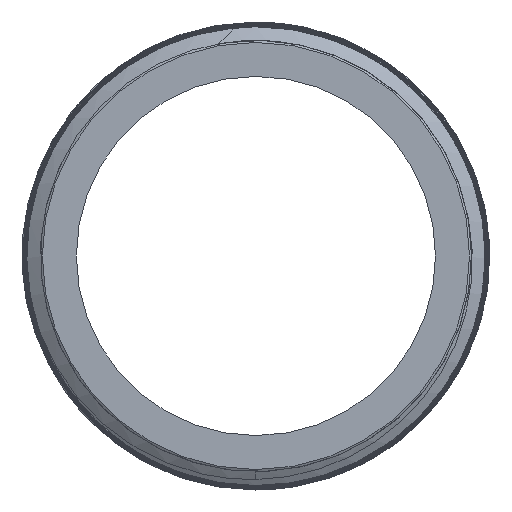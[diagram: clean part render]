
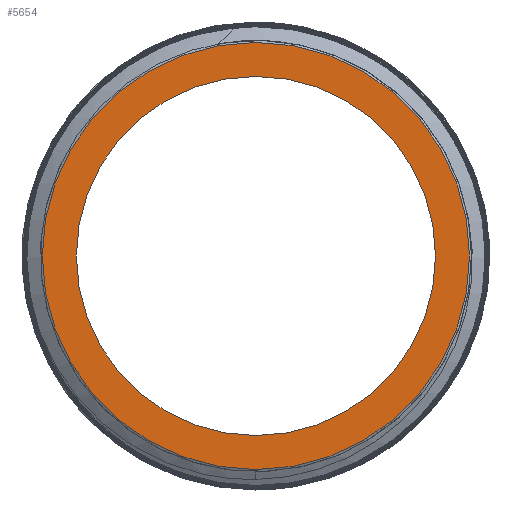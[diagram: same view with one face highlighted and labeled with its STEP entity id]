
A CAD part, left-side view. The second image highlights one B-rep face of the part: STEP entity #5654.
In plain terms, the highlighted planar face has unit normal (-1, 0, 0).
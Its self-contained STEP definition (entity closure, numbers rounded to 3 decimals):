
#150 = FACE_BOUND ( 'NONE', #6072, .T. ) ;
#187 = AXIS2_PLACEMENT_3D ( 'NONE', #6501, #5932, #887 ) ;
#268 = CIRCLE ( 'NONE', #6856, 6.6 ) ;
#535 = CIRCLE ( 'NONE', #187, 7.85 ) ;
#887 = DIRECTION ( 'NONE',  ( 0., 0., 1. ) ) ;
#931 = DIRECTION ( 'NONE',  ( 0., 0., -1. ) ) ;
#1058 = CARTESIAN_POINT ( 'NONE',  ( -250., 0., 0. ) ) ;
#1192 = VERTEX_POINT ( 'NONE', #5740 ) ;
#1307 = DIRECTION ( 'NONE',  ( -1., 0., 0. ) ) ;
#1826 = EDGE_LOOP ( 'NONE', ( #4166, #5095 ) ) ;
#1977 = EDGE_CURVE ( 'NONE', #7261, #1192, #535, .T. ) ;
#2164 = DIRECTION ( 'NONE',  ( -1., 0., 0. ) ) ;
#2251 = CIRCLE ( 'NONE', #5074, 7.85 ) ;
#3335 = CARTESIAN_POINT ( 'NONE',  ( -250., 0., -7.85 ) ) ;
#3562 = ORIENTED_EDGE ( 'NONE', *, *, #4266, .F. ) ;
#3633 = CARTESIAN_POINT ( 'NONE',  ( -250., 0., 0. ) ) ;
#3681 = AXIS2_PLACEMENT_3D ( 'NONE', #3633, #1307, #5241 ) ;
#3761 = CARTESIAN_POINT ( 'NONE',  ( -250., 6.6, 0. ) ) ;
#3866 = CARTESIAN_POINT ( 'NONE',  ( -250., 0., 0. ) ) ;
#4091 = FACE_OUTER_BOUND ( 'NONE', #1826, .T. ) ;
#4166 = ORIENTED_EDGE ( 'NONE', *, *, #1977, .T. ) ;
#4266 = EDGE_CURVE ( 'NONE', #7094, #5857, #6867, .T. ) ;
#4332 = DIRECTION ( 'NONE',  ( -1., 0., 0. ) ) ;
#4402 = DIRECTION ( 'NONE',  ( 0., 0., 1. ) ) ;
#4439 = ORIENTED_EDGE ( 'NONE', *, *, #5085, .F. ) ;
#4832 = CARTESIAN_POINT ( 'NONE',  ( -250., 0., 6.6 ) ) ;
#5074 = AXIS2_PLACEMENT_3D ( 'NONE', #3866, #2164, #6114 ) ;
#5085 = EDGE_CURVE ( 'NONE', #5857, #7094, #268, .T. ) ;
#5095 = ORIENTED_EDGE ( 'NONE', *, *, #5903, .T. ) ;
#5241 = DIRECTION ( 'NONE',  ( 0., 0., 1. ) ) ;
#5415 = DIRECTION ( 'NONE',  ( 1., 0., 0. ) ) ;
#5654 = ADVANCED_FACE ( 'NONE', ( #150, #4091 ), #7063, .F. ) ;
#5740 = CARTESIAN_POINT ( 'NONE',  ( -250., 0., 7.85 ) ) ;
#5857 = VERTEX_POINT ( 'NONE', #4832 ) ;
#5903 = EDGE_CURVE ( 'NONE', #1192, #7261, #2251, .T. ) ;
#5932 = DIRECTION ( 'NONE',  ( -1., 0., 0. ) ) ;
#6072 = EDGE_LOOP ( 'NONE', ( #4439, #3562 ) ) ;
#6114 = DIRECTION ( 'NONE',  ( 0., 0., 1. ) ) ;
#6388 = AXIS2_PLACEMENT_3D ( 'NONE', #3761, #5415, #931 ) ;
#6454 = CARTESIAN_POINT ( 'NONE',  ( -250., 0., -6.6 ) ) ;
#6501 = CARTESIAN_POINT ( 'NONE',  ( -250., 0., 0. ) ) ;
#6856 = AXIS2_PLACEMENT_3D ( 'NONE', #1058, #4332, #4402 ) ;
#6867 = CIRCLE ( 'NONE', #3681, 6.6 ) ;
#7063 = PLANE ( 'NONE',  #6388 ) ;
#7094 = VERTEX_POINT ( 'NONE', #6454 ) ;
#7261 = VERTEX_POINT ( 'NONE', #3335 ) ;
